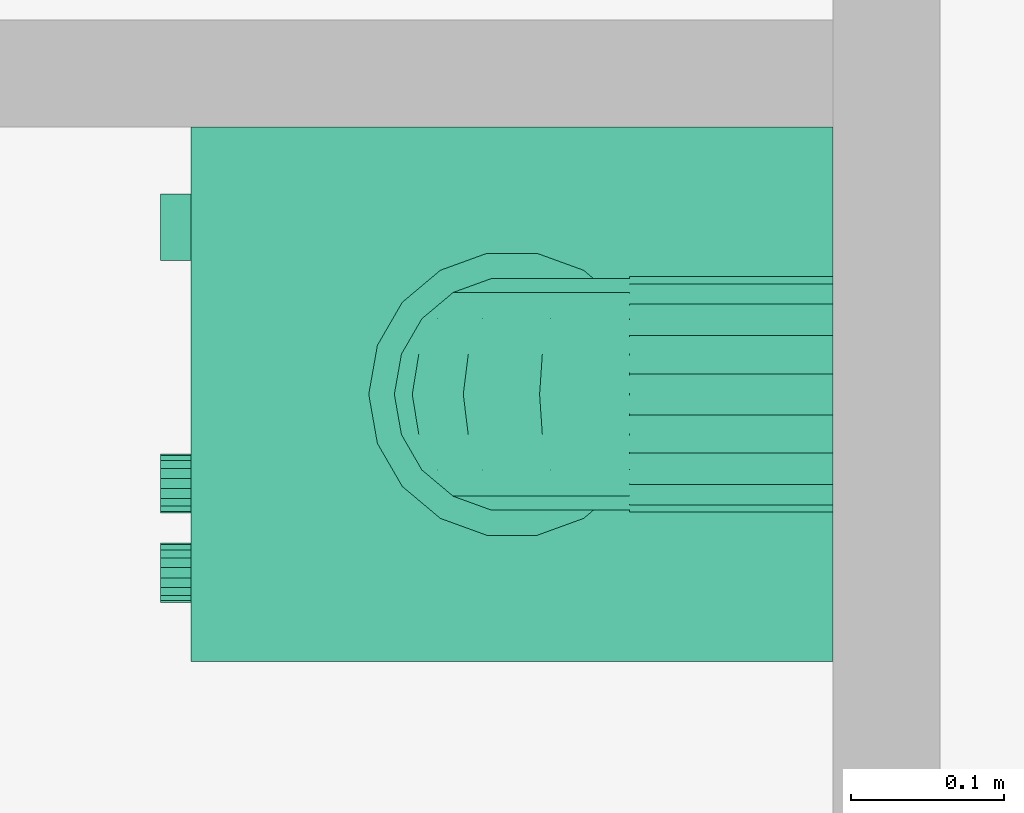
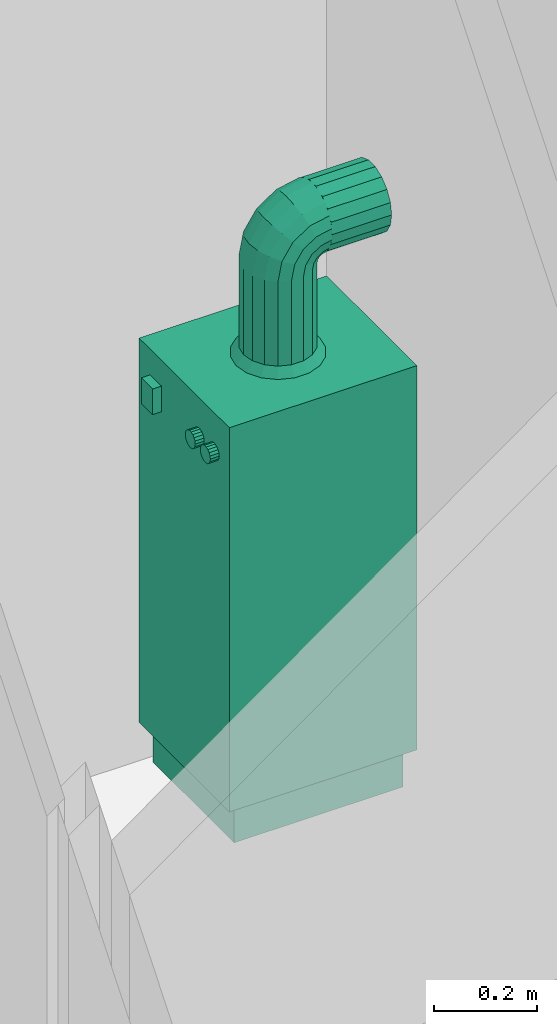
# One storey, part 125 of 171: 1 distribution element.
"""IFC2X3 building model written with IfcOpenShell, lengths in millimetres."""

from ifc_helpers import new_model, entity, si_unit, converted_unit, derived_unit, money_unit, direction, frame, origin_with_axes, place, context, subcontext, project, spatial, open_shell, faceted_brep, surface_model, source, transform, mapped, type_object, element, save


model = new_model("IFC2X3")

# Units and contexts
model_context = context("Model", 3, precision=0.01, world=origin_with_axes(), true_north=direction((0.0, 1.0)))
body_context = subcontext(model_context, "Body", "Model", "MODEL_VIEW")
ifc_project = project(units=[si_unit("LENGTHUNIT", "METRE", prefix="MILLI"), si_unit("AREAUNIT", "SQUARE_METRE"), si_unit("VOLUMEUNIT", "CUBIC_METRE"), converted_unit("PLANEANGLEUNIT", "DEGREE", entity("IfcPlaneAngleMeasure", 0.0174532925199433), si_unit("PLANEANGLEUNIT", "RADIAN"), dimensions=[0, 0, 0, 0, 0, 0, 0]), money_unit("USD"), converted_unit("TIMEUNIT", "Year", entity("IfcTimeMeasure", 31557600.0), si_unit("TIMEUNIT", "SECOND"), dimensions=[0, 0, 1, 0, 0, 0, 0]), si_unit("MASSUNIT", "GRAM", prefix="KILO"), si_unit("THERMODYNAMICTEMPERATUREUNIT", "DEGREE_CELSIUS"), si_unit("LUMINOUSINTENSITYUNIT", "LUMEN"), si_unit("ENERGYUNIT", "JOULE", prefix="MEGA"), derived_unit("THERMALCONDUCTANCEUNIT", [(si_unit("POWERUNIT", "WATT"), 1), (si_unit("LENGTHUNIT", "METRE"), -1), (si_unit("THERMODYNAMICTEMPERATUREUNIT", "KELVIN"), -1)]), derived_unit("SPECIFICHEATCAPACITYUNIT", [(si_unit("ENERGYUNIT", "JOULE"), 1), (si_unit("MASSUNIT", "GRAM", prefix="KILO"), -1), (si_unit("THERMODYNAMICTEMPERATUREUNIT", "KELVIN"), -1)]), derived_unit("MASSDENSITYUNIT", [(si_unit("MASSUNIT", "GRAM", prefix="KILO"), 1), (si_unit("VOLUMEUNIT", "CUBIC_METRE"), -1)])], contexts=[model_context])

# Site, building, storey
site_placement = place(None, origin_with_axes())
site = spatial("IfcSite", under=ifc_project, at=site_placement, Name="Site", CompositionType="ELEMENT")
building_placement = place(site_placement, origin_with_axes())
building = spatial("IfcBuilding", under=site, at=building_placement, Name="Bâtiment", CompositionType="ELEMENT")
storey_placement = place(building_placement, frame((0.0, 0.0, 3000.0), z_axis=(0.0, 0.0, 1.0), x_axis=(1.0, 0.0, 0.0)))
storey = spatial("IfcBuildingStorey", under=building, at=storey_placement, Name="rdc", CompositionType="ELEMENT", Elevation=3000.0)

# Distribution element
distribution_element_type = type_object("IfcDistributionElementType", Name="Chaudière à gaz 27")
shared_shape = source(origin_with_axes(), body_context, "Body", "SurfaceModel", [
    surface_model("IfcShellBasedSurfaceModel", [(200.0, 420.0, 34.90909090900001), (180.0709335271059, 420.0, 37.53280228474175), (180.0709335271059, 438.0, 37.53280228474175), (200.0, 438.0, 34.90909090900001), (161.5, 420.0, 45.22513481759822), (161.5, 438.0, 45.22513481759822), (219.9290664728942, 420.0, 37.53280228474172), (219.9290664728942, 438.0, 37.53280228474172), (145.5527778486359, 420.0, 57.46186875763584), (145.5527778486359, 438.0, 57.46186875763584), (238.5000000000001, 420.0, 45.22513481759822), (238.5000000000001, 438.0, 45.22513481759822), (133.3160439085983, 420.0, 73.409090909), (133.3160439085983, 438.0, 73.409090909), (254.4472221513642, 420.0, 57.46186875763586), (254.4472221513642, 438.0, 57.46186875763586), (125.6237113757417, 420.0, 91.9800244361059), (125.6237113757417, 438.0, 91.9800244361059), (266.6839560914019, 420.0, 73.40909090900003), (266.6839560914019, 438.0, 73.40909090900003), (123.0, 420.0, 111.909090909), (123.0, 438.0, 111.909090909), (274.3762886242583, 420.0, 91.98002443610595), (274.3762886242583, 438.0, 91.98002443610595), (125.6237113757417, 420.0, 131.8381573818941), (125.6237113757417, 438.0, 131.8381573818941), (277.0, 420.0, 111.909090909), (277.0, 438.0, 111.909090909), (133.3160439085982, 420.0, 150.409090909), (133.3160439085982, 438.0, 150.409090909), (274.3762886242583, 420.0, 131.8381573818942), (274.3762886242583, 438.0, 131.8381573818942), (145.5527778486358, 420.0, 166.3563130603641), (145.5527778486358, 438.0, 166.3563130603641), (266.6839560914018, 420.0, 150.4090909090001), (266.6839560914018, 438.0, 150.4090909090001), (161.5, 420.0, 178.5930470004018), (161.5, 438.0, 178.5930470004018), (254.4472221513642, 420.0, 166.3563130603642), (254.4472221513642, 438.0, 166.3563130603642), (180.0709335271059, 420.0, 186.2853795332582), (180.0709335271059, 438.0, 186.2853795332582), (238.5, 420.0, 178.5930470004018), (238.5, 438.0, 178.5930470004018), (200.0, 420.0, 188.909090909), (200.0, 438.0, 188.909090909), (219.929066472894, 420.0, 186.2853795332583), (219.929066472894, 438.0, 186.2853795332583)], [open_shell([[[0, 1, 2, 3]], [[1, 4, 5, 2]], [[6, 0, 3, 7]], [[4, 8, 9, 5]], [[10, 6, 7, 11]], [[8, 12, 13, 9]], [[14, 10, 11, 15]], [[12, 16, 17, 13]], [[18, 14, 15, 19]], [[16, 20, 21, 17]], [[22, 18, 19, 23]], [[20, 24, 25, 21]], [[26, 22, 23, 27]], [[24, 28, 29, 25]], [[30, 26, 27, 31]], [[28, 32, 33, 29]], [[34, 30, 31, 35]], [[32, 36, 37, 33]], [[38, 34, 35, 39]], [[36, 40, 41, 37]], [[42, 38, 39, 43]], [[40, 44, 45, 41]], [[46, 42, 43, 47]], [[44, 46, 47, 45]]])]),
    faceted_brep([(200.0, 438.0, 14.909090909), (174.8945526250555, 438.0, 18.21428575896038), (174.8945526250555, 440.0, 18.21428575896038), (200.0, 440.0, 14.909090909), (225.1054473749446, 438.0, 18.21428575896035), (248.5000000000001, 438.0, 27.90462674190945), (268.5893577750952, 438.0, 43.31973313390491), (284.0044641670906, 438.0, 63.40909090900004), (293.6948051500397, 438.0, 86.80364353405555), (297.0000000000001, 438.0, 111.909090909), (293.6948051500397, 438.0, 137.0145382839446), (284.0044641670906, 438.0, 160.4090909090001), (268.5893577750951, 438.0, 180.4984486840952), (248.5, 438.0, 195.9135550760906), (225.1054473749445, 438.0, 205.6038960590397), (199.9999999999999, 438.0, 208.909090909), (174.8945526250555, 438.0, 205.6038960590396), (151.5, 438.0, 195.9135550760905), (131.4106422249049, 438.0, 180.4984486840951), (115.9955358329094, 438.0, 160.409090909), (106.3051948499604, 438.0, 137.0145382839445), (103.0, 438.0, 111.909090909), (106.3051948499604, 438.0, 86.80364353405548), (115.9955358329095, 438.0, 63.40909090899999), (131.4106422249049, 438.0, 43.31973313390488), (151.5, 438.0, 27.90462674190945), (200.0, 438.0, 34.90909090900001), (180.0709335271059, 438.0, 37.53280228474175), (161.5, 438.0, 45.22513481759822), (145.5527778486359, 438.0, 57.46186875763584), (133.3160439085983, 438.0, 73.409090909), (125.6237113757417, 438.0, 91.9800244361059), (123.0, 438.0, 111.909090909), (125.6237113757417, 438.0, 131.8381573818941), (133.3160439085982, 438.0, 150.409090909), (145.5527778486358, 438.0, 166.3563130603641), (161.5, 438.0, 178.5930470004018), (180.0709335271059, 438.0, 186.2853795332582), (200.0, 438.0, 188.909090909), (219.929066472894, 438.0, 186.2853795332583), (238.5, 438.0, 178.5930470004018), (254.4472221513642, 438.0, 166.3563130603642), (266.6839560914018, 438.0, 150.4090909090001), (274.3762886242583, 438.0, 131.8381573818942), (277.0, 438.0, 111.909090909), (274.3762886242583, 438.0, 91.98002443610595), (266.6839560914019, 438.0, 73.40909090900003), (254.4472221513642, 438.0, 57.46186875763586), (238.5000000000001, 438.0, 45.22513481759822), (219.9290664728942, 438.0, 37.53280228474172), (151.5, 440.0, 27.90462674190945), (131.4106422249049, 440.0, 43.31973313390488), (115.9955358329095, 440.0, 63.40909090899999), (106.3051948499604, 440.0, 86.80364353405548), (103.0, 440.0, 111.909090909), (106.3051948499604, 440.0, 137.0145382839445), (115.9955358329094, 440.0, 160.409090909), (131.4106422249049, 440.0, 180.4984486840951), (151.5, 440.0, 195.9135550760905), (174.8945526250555, 440.0, 205.6038960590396), (199.9999999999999, 440.0, 208.909090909), (225.1054473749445, 440.0, 205.6038960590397), (248.5, 440.0, 195.9135550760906), (268.5893577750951, 440.0, 180.4984486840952), (284.0044641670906, 440.0, 160.4090909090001), (293.6948051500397, 440.0, 137.0145382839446), (297.0000000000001, 440.0, 111.909090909), (293.6948051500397, 440.0, 86.80364353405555), (284.0044641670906, 440.0, 63.40909090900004), (268.5893577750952, 440.0, 43.31973313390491), (248.5000000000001, 440.0, 27.90462674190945), (225.1054473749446, 440.0, 18.21428575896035), (200.0, 440.0, 34.90909090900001), (219.9290664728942, 440.0, 37.53280228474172), (238.5000000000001, 440.0, 45.22513481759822), (254.4472221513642, 440.0, 57.46186875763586), (266.6839560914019, 440.0, 73.40909090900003), (274.3762886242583, 440.0, 91.98002443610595), (277.0, 440.0, 111.909090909), (274.3762886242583, 440.0, 131.8381573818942), (266.6839560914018, 440.0, 150.4090909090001), (254.4472221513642, 440.0, 166.3563130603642), (238.5, 440.0, 178.5930470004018), (219.929066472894, 440.0, 186.2853795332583), (200.0, 440.0, 188.909090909), (180.0709335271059, 440.0, 186.2853795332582), (161.5, 440.0, 178.5930470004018), (145.5527778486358, 440.0, 166.3563130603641), (133.3160439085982, 440.0, 150.409090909), (125.6237113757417, 440.0, 131.8381573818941), (123.0, 440.0, 111.909090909), (125.6237113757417, 440.0, 91.9800244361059), (133.3160439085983, 440.0, 73.409090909), (145.5527778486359, 440.0, 57.46186875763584), (161.5, 440.0, 45.22513481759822), (180.0709335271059, 440.0, 37.53280228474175)], [[[0, 1, 2, 3]], [[0, 4, 5, 6, 7, 8, 9, 10, 11, 12, 13, 14, 15, 16, 17, 18, 19, 20, 21, 22, 23, 24, 25, 1], [26, 27, 28, 29, 30, 31, 32, 33, 34, 35, 36, 37, 38, 39, 40, 41, 42, 43, 44, 45, 46, 47, 48, 49]], [[1, 25, 50, 2]], [[3, 2, 50, 51, 52, 53, 54, 55, 56, 57, 58, 59, 60, 61, 62, 63, 64, 65, 66, 67, 68, 69, 70, 71], [72, 73, 74, 75, 76, 77, 78, 79, 80, 81, 82, 83, 84, 85, 86, 87, 88, 89, 90, 91, 92, 93, 94, 95]], [[4, 0, 3, 71]], [[5, 4, 71, 70]], [[6, 5, 70, 69]], [[7, 6, 69, 68]], [[8, 7, 68, 67]], [[9, 8, 67, 66]], [[10, 9, 66, 65]], [[11, 10, 65, 64]], [[12, 11, 64, 63]], [[13, 12, 63, 62]], [[14, 13, 62, 61]], [[15, 14, 61, 60]], [[16, 15, 60, 59]], [[17, 16, 59, 58]], [[18, 17, 58, 57]], [[19, 18, 57, 56]], [[20, 19, 56, 55]], [[21, 20, 55, 54]], [[22, 21, 54, 53]], [[23, 22, 53, 52]], [[24, 23, 52, 51]], [[25, 24, 51, 50]], [[27, 26, 72, 95]], [[28, 27, 95, 94]], [[29, 28, 94, 93]], [[30, 29, 93, 92]], [[31, 30, 92, 91]], [[32, 31, 91, 90]], [[33, 32, 90, 89]], [[34, 33, 89, 88]], [[35, 34, 88, 87]], [[36, 35, 87, 86]], [[37, 36, 86, 85]], [[38, 37, 85, 84]], [[39, 38, 84, 83]], [[40, 39, 83, 82]], [[41, 40, 82, 81]], [[42, 41, 81, 80]], [[43, 42, 80, 79]], [[44, 43, 79, 78]], [[45, 44, 78, 77]], [[46, 45, 77, 76]], [[47, 46, 76, 75]], [[48, 47, 75, 74]], [[49, 48, 74, 73]], [[26, 49, 73, 72]]]),
    faceted_brep([(332.5, 21.0, 0.0), (17.5, 21.0, 0.0), (17.5, 399.0, 0.0), (332.5, 399.0, 0.0), (332.5, 21.0, 90.9090909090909), (17.5, 21.0, 90.9090909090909), (17.5, 399.0, 90.9090909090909), (332.5, 399.0, 90.9090909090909)], [[[0, 1, 2, 3]], [[1, 0, 4, 5]], [[2, 1, 5, 6]], [[3, 2, 6, 7]], [[0, 3, 7, 4]], [[5, 4, 7, 6]]]),
    faceted_brep([(0.0, 420.0, 90.9090909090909), (0.0, 420.0, 1000.0), (349.9999999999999, 420.0, 1000.0), (350.0, 420.0, 90.90909090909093), (0.0, 0.0, 90.9090909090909), (0.0, 0.0, 818.1818181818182), (0.0, 21.0, 818.1818181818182), (0.0, 21.0, 1000.0), (349.9999999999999, 21.0, 1000.0), (349.9999999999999, 21.0, 818.1818181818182), (349.9999999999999, 0.0, 818.1818181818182), (350.0, 0.0, 90.90909090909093)], [[[0, 1, 2, 3]], [[0, 4, 5, 6, 7, 1]], [[1, 7, 8, 2]], [[3, 2, 8, 9, 10, 11]], [[4, 0, 3, 11]], [[5, 4, 11, 10]], [[6, 5, 10, 9]], [[7, 6, 9, 8]]]),
    faceted_brep([(350.0, 0.0, 818.1818181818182), (0.0, 0.0, 818.1818181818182), (0.0, 21.0, 818.1818181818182), (350.0, 21.0, 818.1818181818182), (350.0, 0.0, 1000.0), (0.0, 0.0, 1000.0), (0.0, 21.0, 1000.0), (350.0, 21.0, 1000.0)], [[[0, 1, 2, 3]], [[1, 0, 4, 5]], [[2, 1, 5, 6]], [[3, 2, 6, 7]], [[0, 3, 7, 4]], [[5, 4, 7, 6]]]),
    faceted_brep([(251.6051342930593, 0.0, 902.4405174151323), (248.2286419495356, 0.0, 896.592261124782), (243.0555555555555, 0.0, 892.2515262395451), (236.709825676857, 0.0, 889.9418694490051), (229.9568409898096, 0.0, 889.9418694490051), (223.6111111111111, 0.0, 892.2515262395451), (218.438024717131, 0.0, 896.5922611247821), (215.0615323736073, 0.0, 902.4405174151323), (213.8888888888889, 0.0, 909.0909090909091), (215.0615323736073, 0.0, 915.741300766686), (218.438024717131, 0.0, 921.5895570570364), (223.6111111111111, 0.0, 925.9302919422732), (229.9568409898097, 0.0, 928.2399487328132), (236.709825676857, 0.0, 928.2399487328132), (243.0555555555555, 0.0, 925.9302919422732), (248.2286419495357, 0.0, 921.5895570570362), (251.6051342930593, 0.0, 915.741300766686), (252.7777777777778, 0.0, 909.0909090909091), (251.6051342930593, -19.99999999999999, 902.4405174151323), (248.2286419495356, -19.99999999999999, 896.592261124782), (243.0555555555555, -19.99999999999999, 892.2515262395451), (236.709825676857, -19.99999999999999, 889.9418694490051), (229.9568409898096, -19.99999999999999, 889.9418694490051), (223.6111111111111, -19.99999999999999, 892.2515262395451), (218.438024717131, -19.99999999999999, 896.5922611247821), (215.0615323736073, -19.99999999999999, 902.4405174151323), (213.8888888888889, -19.99999999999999, 909.0909090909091), (215.0615323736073, -19.99999999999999, 915.741300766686), (218.438024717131, -19.99999999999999, 921.5895570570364), (223.6111111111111, -19.99999999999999, 925.9302919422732), (229.9568409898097, -19.99999999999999, 928.2399487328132), (236.709825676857, -19.99999999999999, 928.2399487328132), (243.0555555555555, -19.99999999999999, 925.9302919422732), (248.2286419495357, -19.99999999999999, 921.5895570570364), (251.6051342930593, -19.99999999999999, 915.741300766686), (252.7777777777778, -19.99999999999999, 909.0909090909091)], [[[0, 1, 2, 3, 4, 5, 6, 7, 8, 9, 10, 11, 12, 13, 14, 15, 16, 17]], [[1, 0, 18, 19]], [[2, 1, 19, 20]], [[3, 2, 20, 21]], [[4, 3, 21, 22]], [[5, 4, 22, 23]], [[6, 5, 23, 24]], [[7, 6, 24, 25]], [[8, 7, 25, 26]], [[9, 8, 26, 27]], [[10, 9, 27, 28]], [[11, 10, 28, 29]], [[12, 11, 29, 30]], [[13, 12, 30, 31]], [[14, 13, 31, 32]], [[15, 14, 32, 33]], [[16, 15, 33, 34]], [[17, 16, 34, 35]], [[0, 17, 35, 18]], [[18, 35, 34, 33, 32, 31, 30, 29, 28, 27, 26, 25, 24, 23, 22, 21, 20, 19]]]),
    faceted_brep([(309.9384676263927, 0.0, 902.4405174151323), (306.561975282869, 0.0, 896.592261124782), (301.3888888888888, 0.0, 892.2515262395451), (295.0431590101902, 0.0, 889.9418694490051), (288.290174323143, 0.0, 889.9418694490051), (281.9444444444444, 0.0, 892.2515262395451), (276.7713580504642, 0.0, 896.5922611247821), (273.3948657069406, 0.0, 902.4405174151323), (272.2222222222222, 0.0, 909.0909090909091), (273.3948657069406, 0.0, 915.741300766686), (276.7713580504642, 0.0, 921.5895570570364), (281.9444444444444, 0.0, 925.9302919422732), (288.290174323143, 0.0, 928.2399487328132), (295.0431590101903, 0.0, 928.2399487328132), (301.3888888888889, 0.0, 925.9302919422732), (306.561975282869, 0.0, 921.5895570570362), (309.9384676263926, 0.0, 915.741300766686), (311.1111111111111, 0.0, 909.0909090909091), (309.9384676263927, -19.99999999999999, 902.4405174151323), (306.561975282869, -19.99999999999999, 896.592261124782), (301.3888888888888, -19.99999999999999, 892.2515262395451), (295.0431590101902, -19.99999999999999, 889.9418694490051), (288.290174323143, -19.99999999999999, 889.9418694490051), (281.9444444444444, -19.99999999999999, 892.2515262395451), (276.7713580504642, -19.99999999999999, 896.5922611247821), (273.3948657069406, -19.99999999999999, 902.4405174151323), (272.2222222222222, -19.99999999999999, 909.0909090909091), (273.3948657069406, -19.99999999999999, 915.741300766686), (276.7713580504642, -19.99999999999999, 921.5895570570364), (281.9444444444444, -19.99999999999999, 925.9302919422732), (288.290174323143, -19.99999999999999, 928.2399487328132), (295.0431590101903, -19.99999999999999, 928.2399487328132), (301.3888888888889, -19.99999999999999, 925.9302919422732), (306.561975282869, -19.99999999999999, 921.5895570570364), (309.9384676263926, -19.99999999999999, 915.741300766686), (311.1111111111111, -19.99999999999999, 909.0909090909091)], [[[0, 1, 2, 3, 4, 5, 6, 7, 8, 9, 10, 11, 12, 13, 14, 15, 16, 17]], [[1, 0, 18, 19]], [[2, 1, 19, 20]], [[3, 2, 20, 21]], [[4, 3, 21, 22]], [[5, 4, 22, 23]], [[6, 5, 23, 24]], [[7, 6, 24, 25]], [[8, 7, 25, 26]], [[9, 8, 26, 27]], [[10, 9, 27, 28]], [[11, 10, 28, 29]], [[12, 11, 29, 30]], [[13, 12, 30, 31]], [[14, 13, 31, 32]], [[15, 14, 32, 33]], [[16, 15, 33, 34]], [[17, 16, 34, 35]], [[0, 17, 35, 18]], [[18, 35, 34, 33, 32, 31, 30, 29, 28, 27, 26, 25, 24, 23, 22, 21, 20, 19]]]),
    faceted_brep([(87.5, 0.0, 878.7878787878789), (43.75, 0.0, 878.7878787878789), (43.75, 0.0, 939.3939393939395), (87.5, 0.0, 939.3939393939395), (87.5, -20.0, 878.7878787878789), (43.75, -20.0, 878.7878787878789), (43.75, -19.99999999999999, 939.3939393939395), (87.5, -19.99999999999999, 939.3939393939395)], [[[0, 1, 2, 3]], [[1, 0, 4, 5]], [[2, 1, 5, 6]], [[3, 2, 6, 7]], [[0, 3, 7, 4]], [[5, 4, 7, 6]]]),
    surface_model("IfcShellBasedSurfaceModel", [(148.6644489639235, 282.356331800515, 1220.0), (175.0, 287.0, 1220.0), (175.0, 287.0, 1020.0), (148.6644489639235, 282.356331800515, 1020.0), (201.3355510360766, 282.356331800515, 1220.0), (201.3355510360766, 282.356331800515, 1020.0), (175.0, 303.7499999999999, 1000.0), (142.9356115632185, 298.0961831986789, 1000.0), (125.5053540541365, 268.9854221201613, 1220.0), (125.5053540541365, 268.9854221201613, 1020.0), (224.4946459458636, 268.9854221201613, 1220.0), (224.4946459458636, 268.9854221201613, 1020.0), (207.0643884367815, 298.0961831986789, 1000.0), (114.7386615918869, 281.8166665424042, 1000.0), (108.3160439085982, 248.5, 1220.0), (108.3160439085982, 248.5, 1020.0), (241.6839560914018, 248.4999999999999, 1220.0), (241.6839560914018, 248.4999999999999, 1020.0), (235.2613384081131, 281.8166665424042, 1000.0), (93.81011839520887, 256.8749999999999, 1000.0), (99.16980301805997, 223.3709096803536, 1220.0), (99.16980301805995, 223.3709096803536, 1020.0), (250.8301969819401, 223.3709096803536, 1220.0), (250.83019698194, 223.3709096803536, 1020.0), (256.1898816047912, 256.8749999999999, 1000.0), (82.6742731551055, 226.2795166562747, 1000.0), (99.16980301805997, 196.6290903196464, 1220.0), (99.16980301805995, 196.6290903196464, 1020.0), (250.83019698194, 196.6290903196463, 1220.0), (250.83019698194, 196.6290903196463, 1020.0), (267.3257268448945, 226.2795166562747, 1000.0), (82.67427315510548, 193.7204833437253, 1000.0), (108.3160439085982, 171.5, 1220.0), (108.3160439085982, 171.5, 1020.0), (241.6839560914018, 171.4999999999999, 1220.0), (241.6839560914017, 171.4999999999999, 1020.0), (267.3257268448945, 193.7204833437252, 1000.0), (93.81011839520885, 163.125, 1000.0), (125.5053540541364, 151.0145778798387, 1220.0), (125.5053540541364, 151.0145778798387, 1020.0), (224.4946459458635, 151.0145778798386, 1220.0), (224.4946459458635, 151.0145778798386, 1020.0), (256.1898816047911, 163.1249999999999, 1000.0), (114.7386615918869, 138.1833334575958, 1000.0), (148.6644489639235, 137.643668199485, 1220.0), (148.6644489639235, 137.643668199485, 1020.0), (201.3355510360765, 137.643668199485, 1220.0), (201.3355510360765, 137.643668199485, 1020.0), (235.261338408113, 138.1833334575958, 1000.0), (142.9356115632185, 121.9038168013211, 1000.0), (175.0, 133.0, 1220.0), (175.0, 133.0, 1020.0), (207.0643884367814, 121.9038168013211, 1000.0), (175.0, 116.25, 1000.0)], [open_shell([[[0, 1, 2, 3]], [[1, 4, 5, 2]], [[3, 2, 6, 7]], [[8, 0, 3, 9]], [[4, 10, 11, 5]], [[2, 5, 12, 6]], [[9, 3, 7, 13]], [[14, 8, 9, 15]], [[10, 16, 17, 11]], [[5, 11, 18, 12]], [[15, 9, 13, 19]], [[20, 14, 15, 21]], [[16, 22, 23, 17]], [[11, 17, 24, 18]], [[21, 15, 19, 25]], [[26, 20, 21, 27]], [[22, 28, 29, 23]], [[17, 23, 30, 24]], [[27, 21, 25, 31]], [[32, 26, 27, 33]], [[28, 34, 35, 29]], [[23, 29, 36, 30]], [[33, 27, 31, 37]], [[38, 32, 33, 39]], [[34, 40, 41, 35]], [[29, 35, 42, 36]], [[39, 33, 37, 43]], [[44, 38, 39, 45]], [[40, 46, 47, 41]], [[35, 41, 48, 42]], [[45, 39, 43, 49]], [[50, 44, 45, 51]], [[46, 50, 51, 47]], [[41, 47, 52, 48]], [[51, 45, 49, 53]], [[47, 51, 53, 52]]])]),
    faceted_brep([(99.16980301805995, 203.5081662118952, 1254.583449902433), (99.16980301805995, 196.6290903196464, 1220.0), (108.3160439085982, 171.5, 1220.0), (108.3160439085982, 180.2919139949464, 1264.199936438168), (99.16980301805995, 228.2143857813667, 1244.349798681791), (99.16980301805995, 223.3709096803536, 1220.0), (108.3160439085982, 248.5, 1220.0), (125.5053540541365, 268.9854221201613, 1220.0), (148.6644489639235, 282.356331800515, 1220.0), (175.0, 287.0, 1220.0), (201.3355510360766, 282.356331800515, 1220.0), (224.4946459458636, 268.9854221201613, 1220.0), (241.6839560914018, 248.4999999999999, 1220.0), (250.83019698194, 223.3709096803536, 1220.0), (250.83019698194, 196.6290903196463, 1220.0), (241.6839560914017, 171.4999999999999, 1220.0), (224.4946459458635, 151.0145778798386, 1220.0), (201.3355510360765, 137.643668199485, 1220.0), (175.0, 132.9999999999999, 1220.0), (148.6644489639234, 137.643668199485, 1220.0), (125.5053540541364, 151.0145778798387, 1220.0), (125.5053540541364, 161.3658517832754, 1272.039368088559), (99.16980301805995, 223.098116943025, 1283.901883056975), (108.3160439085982, 205.3291667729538, 1301.670833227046), (99.16980301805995, 242.0074387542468, 1264.992561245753), (108.3160439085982, 251.4306379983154, 1234.733312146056), (125.5053540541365, 270.3567002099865, 1226.893880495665), (148.6644489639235, 282.7098099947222, 1221.777054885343), (201.3355510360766, 282.7098099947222, 1221.777054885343), (224.4946459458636, 270.3567002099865, 1226.893880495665), (241.6839560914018, 251.4306379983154, 1234.733312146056), (250.83019698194, 228.2143857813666, 1244.349798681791), (250.83019698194, 203.5081662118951, 1254.583449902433), (241.6839560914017, 180.2919139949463, 1264.199936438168), (224.4946459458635, 161.3658517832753, 1272.039368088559), (201.3355510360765, 149.0127419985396, 1277.15619369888), (175.0, 144.7225519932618, 1278.933248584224), (148.6644489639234, 149.0127419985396, 1277.15619369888), (125.5053540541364, 190.8437858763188, 1316.156214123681), (108.3160439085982, 242.8000635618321, 1326.708086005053), (99.16980301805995, 252.4165500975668, 1303.491833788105), (99.16980301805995, 262.6502013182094, 1278.785614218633), (108.3160439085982, 259.7763889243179, 1247.223611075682), (125.5053540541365, 274.2617698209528, 1232.738230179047), (148.6644489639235, 283.7164307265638, 1223.283569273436), (201.3355510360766, 283.7164307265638, 1223.283569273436), (224.4946459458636, 274.2617698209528, 1232.738230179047), (241.6839560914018, 259.7763889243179, 1247.223611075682), (250.83019698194, 242.0074387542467, 1264.992561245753), (250.83019698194, 223.0981169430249, 1283.901883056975), (241.6839560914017, 205.3291667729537, 1301.670833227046), (224.4946459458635, 190.8437858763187, 1316.156214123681), (201.3355510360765, 181.3891249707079, 1325.610875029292), (175.0, 178.1055556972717, 1328.894444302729), (148.6644489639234, 181.3891249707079, 1325.610875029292), (125.5053540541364, 234.9606319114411, 1345.634148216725), (108.3160439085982, 287.0000000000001, 1335.5), (99.16980301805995, 287.0000000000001, 1310.370909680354), (99.16980301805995, 287.0000000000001, 1283.629090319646), (108.3160439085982, 272.266687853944, 1255.569362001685), (125.5053540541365, 280.1061195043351, 1236.643299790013), (148.6644489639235, 285.2229451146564, 1224.290190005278), (201.3355510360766, 285.2229451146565, 1224.290190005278), (224.4946459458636, 280.1061195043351, 1236.643299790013), (241.6839560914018, 272.266687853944, 1255.569362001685), (250.83019698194, 262.6502013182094, 1278.785614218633), (250.83019698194, 252.4165500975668, 1303.491833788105), (241.6839560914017, 242.8000635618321, 1326.708086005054), (224.4946459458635, 234.9606319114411, 1345.634148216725), (201.3355510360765, 229.8438063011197, 1357.98725800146), (175.0, 228.0667514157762, 1362.277448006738), (148.6644489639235, 229.8438063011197, 1357.98725800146), (125.5053540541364, 287.0000000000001, 1355.985422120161), (108.3160439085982, 287.0, 1258.5), (148.6644489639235, 287.0000000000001, 1369.356331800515), (175.0, 287.0000000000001, 1374.0), (201.3355510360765, 287.0000000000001, 1369.356331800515), (224.4946459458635, 287.0000000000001, 1355.985422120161), (241.6839560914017, 287.0000000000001, 1335.5), (250.83019698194, 287.0000000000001, 1310.370909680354), (250.83019698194, 287.0000000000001, 1283.629090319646), (241.6839560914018, 287.0, 1258.5), (224.4946459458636, 287.0, 1238.014577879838), (201.3355510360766, 287.0, 1224.643668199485), (148.6644489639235, 287.0, 1224.643668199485), (125.5053540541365, 287.0, 1238.014577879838)], [[[0, 1, 2, 3]], [[1, 0, 4, 5]], [[2, 1, 5, 6, 7, 8, 9, 10, 11, 12, 13, 14, 15, 16, 17, 18, 19, 20]], [[3, 2, 20, 21]], [[22, 0, 3, 23]], [[0, 22, 24, 4]], [[6, 5, 4, 25]], [[26, 7, 6, 25]], [[7, 26, 27, 8]], [[8, 27, 9]], [[28, 10, 9]], [[10, 28, 29, 11]], [[11, 29, 30, 12]], [[31, 13, 12, 30]], [[14, 13, 31, 32]], [[33, 15, 14, 32]], [[15, 33, 34, 16]], [[35, 17, 16, 34]], [[36, 18, 17, 35]], [[19, 18, 36, 37]], [[21, 20, 19, 37]], [[23, 3, 21, 38]], [[22, 23, 39, 40]], [[24, 22, 40, 41]], [[4, 24, 42, 25]], [[43, 26, 25, 42]], [[26, 43, 44, 27]], [[27, 44, 9]], [[45, 28, 9]], [[28, 45, 46, 29]], [[29, 46, 47, 30]], [[31, 30, 47, 48]], [[49, 32, 31, 48]], [[32, 49, 50, 33]], [[51, 34, 33, 50]], [[35, 34, 51, 52]], [[53, 36, 35, 52]], [[54, 37, 36, 53]], [[38, 21, 37, 54]], [[39, 23, 38, 55]], [[40, 39, 56, 57]], [[41, 40, 57, 58]], [[59, 42, 24, 41]], [[42, 59, 60, 43]], [[43, 60, 61, 44]], [[44, 61, 9]], [[62, 45, 9]], [[45, 62, 63, 46]], [[46, 63, 64, 47]], [[65, 48, 47, 64]], [[66, 49, 48, 65]], [[50, 49, 66, 67]], [[68, 51, 50, 67]], [[52, 51, 68, 69]], [[53, 52, 69, 70]], [[71, 54, 53, 70]], [[55, 38, 54, 71]], [[56, 39, 55, 72]], [[73, 58, 57, 56, 72, 74, 75, 76, 77, 78, 79, 80, 81, 82, 83, 9, 84, 85]], [[59, 41, 58, 73]], [[59, 73, 85, 60]], [[60, 85, 84, 61]], [[61, 84, 9]], [[62, 9, 83]], [[63, 62, 83, 82]], [[63, 82, 81, 64]], [[65, 64, 81, 80]], [[66, 65, 80, 79]], [[67, 66, 79, 78]], [[77, 68, 67, 78]], [[68, 77, 76, 69]], [[70, 69, 76, 75]], [[74, 71, 70, 75]], [[72, 55, 71, 74]]]),
    surface_model("IfcShellBasedSurfaceModel", [(102.6436681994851, 420.0, 1323.335551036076), (98.0, 420.0, 1297.0), (97.99999999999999, 287.0, 1297.0), (102.643668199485, 287.0, 1323.335551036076), (102.643668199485, 420.0, 1270.664448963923), (102.643668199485, 287.0, 1270.664448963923), (116.0145778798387, 420.0, 1346.494645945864), (116.0145778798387, 287.0, 1346.494645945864), (116.0145778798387, 420.0, 1247.505354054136), (116.0145778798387, 287.0, 1247.505354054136), (136.5, 420.0, 1363.683956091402), (136.5, 287.0, 1363.683956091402), (136.5, 420.0, 1230.316043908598), (136.5, 287.0, 1230.316043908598), (161.6290903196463, 420.0, 1372.83019698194), (161.6290903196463, 287.0, 1372.83019698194), (161.6290903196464, 420.0, 1221.16980301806), (161.6290903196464, 287.0, 1221.16980301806), (188.3709096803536, 420.0, 1372.83019698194), (188.3709096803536, 287.0, 1372.83019698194), (188.3709096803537, 420.0, 1221.16980301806), (188.3709096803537, 287.0, 1221.16980301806), (213.5, 420.0, 1363.683956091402), (213.5, 287.0, 1363.683956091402), (213.5000000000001, 420.0, 1230.316043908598), (213.5, 287.0, 1230.316043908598), (233.9854221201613, 420.0, 1346.494645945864), (233.9854221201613, 287.0, 1346.494645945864), (233.9854221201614, 420.0, 1247.505354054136), (233.9854221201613, 287.0, 1247.505354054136), (247.356331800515, 420.0, 1323.335551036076), (247.3563318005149, 287.0, 1323.335551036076), (247.356331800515, 420.0, 1270.664448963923), (247.356331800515, 287.0, 1270.664448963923), (252.0, 420.0, 1297.0), (252.0, 287.0, 1297.0)], [open_shell([[[0, 1, 2, 3]], [[1, 4, 5, 2]], [[6, 0, 3, 7]], [[4, 8, 9, 5]], [[10, 6, 7, 11]], [[8, 12, 13, 9]], [[14, 10, 11, 15]], [[12, 16, 17, 13]], [[18, 14, 15, 19]], [[16, 20, 21, 17]], [[22, 18, 19, 23]], [[20, 24, 25, 21]], [[26, 22, 23, 27]], [[24, 28, 29, 25]], [[30, 26, 27, 31]], [[28, 32, 33, 29]], [[34, 30, 31, 35]], [[32, 34, 35, 33]]])]),
])
distribution_element_placement = place(storey_placement, frame((2223036.480163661, -626411.2135657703, 0.0), z_axis=(0.0, 0.0, 1.0), x_axis=(2.288197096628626e-07, -0.9999999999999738, 0.0)))
element("IfcDistributionElement", 1, at=distribution_element_placement, inside=storey, type_object=distribution_element_type, Name="Obj.-003", context=body_context, shape_type="MappedRepresentation", body=[
    mapped(shared_shape, transform((0.0, 0.0, 0.0))),
])

save(model, "model.ifc")
